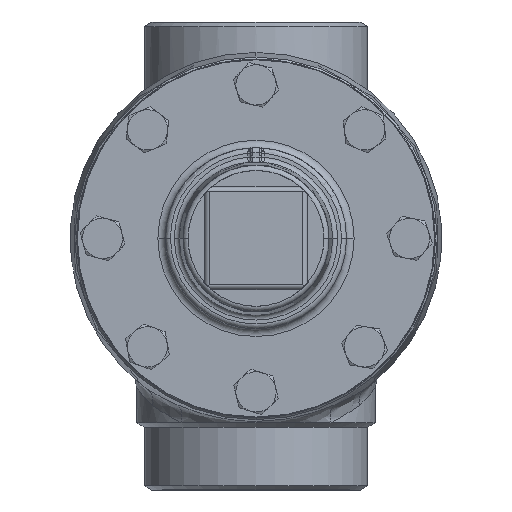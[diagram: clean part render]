
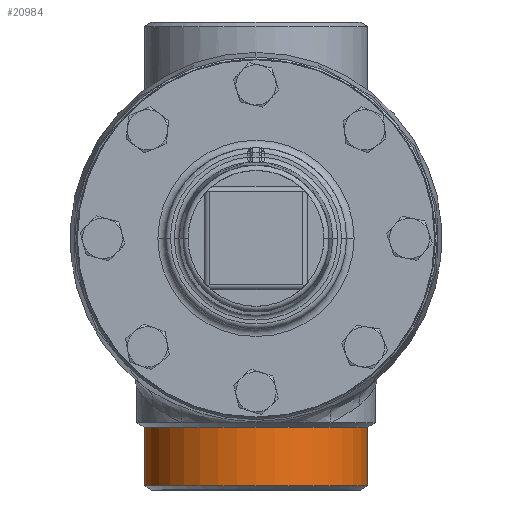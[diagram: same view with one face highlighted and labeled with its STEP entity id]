
A CAD part, front view. The second image highlights one B-rep face of the part: STEP entity #20984.
In plain terms, the highlighted cylindrical face has radius 44.45 mm (diameter 88.9 mm), a partial arc.
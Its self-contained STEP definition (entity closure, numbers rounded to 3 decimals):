
#73 = VERTEX_POINT ( 'NONE', #28094 ) ;
#17856 = EDGE_CURVE ( 'NONE', #20699, #2191, #6878, .T. ) ;
#18556 = ORIENTED_EDGE ( 'NONE', *, *, #17856, .T. ) ;
#2191 = VERTEX_POINT ( 'NONE', #29426 ) ;
#18809 = LINE ( 'NONE', #18810, #18811 ) ;
#18810 = CARTESIAN_POINT ( 'NONE',  ( -44.45, -74., -75. ) ) ;
#18811 = VECTOR ( 'NONE', #18812, 1000. ) ;
#18812 = DIRECTION ( 'NONE',  ( 0., 0., -1. ) ) ;
#19540 = ORIENTED_EDGE ( 'NONE', *, *, #21544, .T. ) ;
#20526 = EDGE_LOOP ( 'NONE', ( #19540, #18556, #27826, #26905 ) ) ;
#20699 = VERTEX_POINT ( 'NONE', #14879 ) ;
#20984 = ADVANCED_FACE ( 'NONE', ( #15259 ), #15260, .T. ) ;
#21121 = VERTEX_POINT ( 'NONE', #15321 ) ;
#21544 = EDGE_CURVE ( 'NONE', #21121, #20699, #22175, .T. ) ;
#22175 = CIRCLE ( 'NONE', #22176, 44.45 ) ;
#22176 = AXIS2_PLACEMENT_3D ( 'NONE', #22197, #22198, #22199 ) ;
#22197 = CARTESIAN_POINT ( 'NONE',  ( 0., -74., -75. ) ) ;
#22198 = DIRECTION ( 'NONE',  ( 0., 0., -1. ) ) ;
#22199 = DIRECTION ( 'NONE',  ( -1., 0., 0. ) ) ;
#6878 = LINE ( 'NONE', #6879, #6880 ) ;
#6879 = CARTESIAN_POINT ( 'NONE',  ( 44.45, -74., -75. ) ) ;
#6880 = VECTOR ( 'NONE', #6881, 1000. ) ;
#6881 = DIRECTION ( 'NONE',  ( 0., 0., -1. ) ) ;
#24872 = CIRCLE ( 'NONE', #24873, 44.45 ) ;
#24873 = AXIS2_PLACEMENT_3D ( 'NONE', #24874, #24875, #24876 ) ;
#24874 = CARTESIAN_POINT ( 'NONE',  ( 0., -74., -98.239 ) ) ;
#24875 = DIRECTION ( 'NONE',  ( 0., 0., 1. ) ) ;
#24876 = DIRECTION ( 'NONE',  ( 1., 0., 0. ) ) ;
#26525 = EDGE_CURVE ( 'NONE', #21121, #73, #18809, .T. ) ;
#26905 = ORIENTED_EDGE ( 'NONE', *, *, #26525, .F. ) ;
#27446 = EDGE_CURVE ( 'NONE', #2191, #73, #24872, .T. ) ;
#27826 = ORIENTED_EDGE ( 'NONE', *, *, #27446, .T. ) ;
#28094 = CARTESIAN_POINT ( 'NONE',  ( -44.45, -74., -98.239 ) ) ;
#29426 = CARTESIAN_POINT ( 'NONE',  ( 44.45, -74., -98.239 ) ) ;
#14879 = CARTESIAN_POINT ( 'NONE',  ( 44.45, -74., -75. ) ) ;
#15259 = FACE_OUTER_BOUND ( 'NONE', #20526, .T. ) ;
#15260 = CYLINDRICAL_SURFACE ( 'NONE', #15261, 44.45 ) ;
#15261 = AXIS2_PLACEMENT_3D ( 'NONE', #15262, #15263, #15264 ) ;
#15262 = CARTESIAN_POINT ( 'NONE',  ( 0., -74., -75. ) ) ;
#15263 = DIRECTION ( 'NONE',  ( 0., 0., -1. ) ) ;
#15264 = DIRECTION ( 'NONE',  ( -1., 0., 0. ) ) ;
#15321 = CARTESIAN_POINT ( 'NONE',  ( -44.45, -74., -75. ) ) ;
